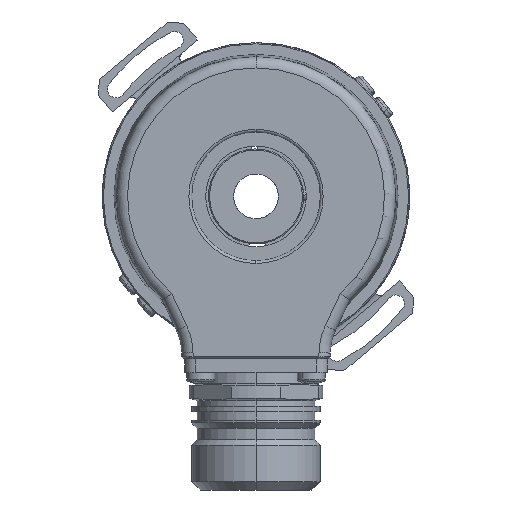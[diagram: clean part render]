
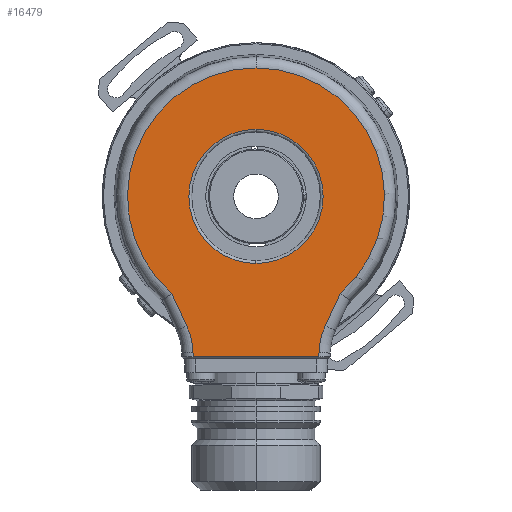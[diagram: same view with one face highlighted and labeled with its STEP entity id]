
A CAD part, left-side view. The second image highlights one B-rep face of the part: STEP entity #16479.
In plain terms, the highlighted planar face has unit normal (-1, 0, 0).
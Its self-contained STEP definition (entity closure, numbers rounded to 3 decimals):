
#612 = VERTEX_POINT ( 'NONE', #11156 ) ;
#623 = EDGE_CURVE ( 'NONE', #627, #612, #11221, .T. ) ;
#627 = VERTEX_POINT ( 'NONE', #11203 ) ;
#696 = EDGE_CURVE ( 'NONE', #699, #703, #12093, .T. ) ;
#699 = VERTEX_POINT ( 'NONE', #12085 ) ;
#703 = VERTEX_POINT ( 'NONE', #12072 ) ;
#1457 = VERTEX_POINT ( 'NONE', #18518 ) ;
#1724 = VERTEX_POINT ( 'NONE', #19323 ) ;
#1726 = VERTEX_POINT ( 'NONE', #19322 ) ;
#1728 = EDGE_CURVE ( 'NONE', #612, #1726, #19321, .T. ) ;
#1736 = EDGE_CURVE ( 'NONE', #1457, #627, #19394, .T. ) ;
#1788 = ORIENTED_EDGE ( 'NONE', *, *, #1736, .T. ) ;
#1795 = ORIENTED_EDGE ( 'NONE', *, *, #1839, .T. ) ;
#1796 = ORIENTED_EDGE ( 'NONE', *, *, #2601, .T. ) ;
#1802 = ORIENTED_EDGE ( 'NONE', *, *, #1728, .T. ) ;
#1803 = ORIENTED_EDGE ( 'NONE', *, *, #2604, .T. ) ;
#1830 = VERTEX_POINT ( 'NONE', #19706 ) ;
#1839 = EDGE_CURVE ( 'NONE', #1724, #1830, #19727, .T. ) ;
#1840 = ORIENTED_EDGE ( 'NONE', *, *, #17323, .T. ) ;
#1844 = EDGE_CURVE ( 'NONE', #17140, #16391, #19752, .T. ) ;
#1845 = ORIENTED_EDGE ( 'NONE', *, *, #16478, .T. ) ;
#1851 = ORIENTED_EDGE ( 'NONE', *, *, #623, .T. ) ;
#2598 = VERTEX_POINT ( 'NONE', #22463 ) ;
#2601 = EDGE_CURVE ( 'NONE', #2598, #1457, #22488, .T. ) ;
#2604 = EDGE_CURVE ( 'NONE', #1726, #1724, #22484, .T. ) ;
#11156 = CARTESIAN_POINT ( 'NONE',  ( -21., 15.091, -17.32 ) ) ;
#11203 = CARTESIAN_POINT ( 'NONE',  ( -21., 0., 22.972 ) ) ;
#11217 = DIRECTION ( 'NONE',  ( 0., 0., 1. ) ) ;
#11218 = DIRECTION ( 'NONE',  ( -1., 0., 0. ) ) ;
#11219 = CARTESIAN_POINT ( 'NONE',  ( -21., 0., 0. ) ) ;
#11220 = AXIS2_PLACEMENT_3D ( 'NONE', #11219, #11218, #11217 ) ;
#11221 = CIRCLE ( 'NONE', #11220, 22.972 ) ;
#12072 = CARTESIAN_POINT ( 'NONE',  ( -21., 0., -12. ) ) ;
#12085 = CARTESIAN_POINT ( 'NONE',  ( -21., 0., 12. ) ) ;
#12086 = DIRECTION ( 'NONE',  ( 0., 0., 1. ) ) ;
#12088 = DIRECTION ( 'NONE',  ( 1., 0., 0. ) ) ;
#12090 = CARTESIAN_POINT ( 'NONE',  ( -21., 0., 0. ) ) ;
#12091 = AXIS2_PLACEMENT_3D ( 'NONE', #12090, #12088, #12086 ) ;
#12093 = CIRCLE ( 'NONE', #12091, 12. ) ;
#12854 = CARTESIAN_POINT ( 'NONE',  ( -21., -11.268, -27.974 ) ) ;
#13127 = FACE_OUTER_BOUND ( 'NONE', #17267, .T. ) ;
#13128 = FACE_BOUND ( 'NONE', #16480, .T. ) ;
#13129 = DIRECTION ( 'NONE',  ( 0., 0., 1. ) ) ;
#13130 = DIRECTION ( 'NONE',  ( 1., 0., 0. ) ) ;
#13131 = CARTESIAN_POINT ( 'NONE',  ( -21., 0., 0. ) ) ;
#13132 = AXIS2_PLACEMENT_3D ( 'NONE', #13131, #13130, #13129 ) ;
#13133 = CIRCLE ( 'NONE', #13132, 12. ) ;
#13176 = DIRECTION ( 'NONE',  ( 0., 0., 1. ) ) ;
#13178 = DIRECTION ( 'NONE',  ( 1., 0., 0. ) ) ;
#13179 = CARTESIAN_POINT ( 'NONE',  ( -21., 0., 0. ) ) ;
#13180 = AXIS2_PLACEMENT_3D ( 'NONE', #13179, #13178, #13176 ) ;
#13185 = PLANE ( 'NONE',  #13180 ) ;
#14734 = DIRECTION ( 'NONE',  ( 0., 0., 1. ) ) ;
#14735 = DIRECTION ( 'NONE',  ( 1., 0., 0. ) ) ;
#14746 = CARTESIAN_POINT ( 'NONE',  ( -21., -23.266, -28.183 ) ) ;
#14747 = AXIS2_PLACEMENT_3D ( 'NONE', #14746, #14735, #14734 ) ;
#14750 = CIRCLE ( 'NONE', #14747, 12. ) ;
#14751 = DIRECTION ( 'NONE',  ( 0., -1., 0. ) ) ;
#14752 = VECTOR ( 'NONE', #14751, 1000. ) ;
#14753 = CARTESIAN_POINT ( 'NONE',  ( -21., -11.25, -28.695 ) ) ;
#14754 = LINE ( 'NONE', #14753, #14752 ) ;
#14755 = CARTESIAN_POINT ( 'NONE',  ( -21., -11.255, -28.695 ) ) ;
#16391 = VERTEX_POINT ( 'NONE', #12854 ) ;
#16478 = EDGE_CURVE ( 'NONE', #703, #699, #13133, .T. ) ;
#16479 = ADVANCED_FACE ( 'NONE', ( #13128, #13127 ), #13185, .F. ) ;
#16480 = EDGE_LOOP ( 'NONE', ( #17217, #1845 ) ) ;
#17140 = VERTEX_POINT ( 'NONE', #14755 ) ;
#17171 = ORIENTED_EDGE ( 'NONE', *, *, #17294, .T. ) ;
#17217 = ORIENTED_EDGE ( 'NONE', *, *, #696, .T. ) ;
#17267 = EDGE_LOOP ( 'NONE', ( #1795, #17171, #17308, #1840, #1796, #1788, #1851, #1802, #1803 ) ) ;
#17294 = EDGE_CURVE ( 'NONE', #1830, #17140, #14754, .T. ) ;
#17308 = ORIENTED_EDGE ( 'NONE', *, *, #1844, .T. ) ;
#17323 = EDGE_CURVE ( 'NONE', #16391, #2598, #14750, .T. ) ;
#18518 = CARTESIAN_POINT ( 'NONE',  ( -21., -15.091, -17.32 ) ) ;
#19318 = DIRECTION ( 'NONE',  ( 0., -0.423, -0.906 ) ) ;
#19319 = VECTOR ( 'NONE', #19318, 1000. ) ;
#19320 = CARTESIAN_POINT ( 'NONE',  ( -21., 12.39, -23.112 ) ) ;
#19321 = LINE ( 'NONE', #19320, #19319 ) ;
#19322 = CARTESIAN_POINT ( 'NONE',  ( -21., 12.39, -23.112 ) ) ;
#19323 = CARTESIAN_POINT ( 'NONE',  ( -21., 11.268, -27.974 ) ) ;
#19390 = DIRECTION ( 'NONE',  ( 0., 0., 1. ) ) ;
#19391 = DIRECTION ( 'NONE',  ( -1., 0., 0. ) ) ;
#19392 = CARTESIAN_POINT ( 'NONE',  ( -21., 0., 0. ) ) ;
#19393 = AXIS2_PLACEMENT_3D ( 'NONE', #19392, #19391, #19390 ) ;
#19394 = CIRCLE ( 'NONE', #19393, 22.972 ) ;
#19706 = CARTESIAN_POINT ( 'NONE',  ( -21., 11.255, -28.695 ) ) ;
#19724 = DIRECTION ( 'NONE',  ( 0., -0.017, -1. ) ) ;
#19725 = VECTOR ( 'NONE', #19724, 1000. ) ;
#19726 = CARTESIAN_POINT ( 'NONE',  ( -21., 11.752, -0.205 ) ) ;
#19727 = LINE ( 'NONE', #19726, #19725 ) ;
#19749 = DIRECTION ( 'NONE',  ( 0., -0.017, 1. ) ) ;
#19750 = VECTOR ( 'NONE', #19749, 1000. ) ;
#19751 = CARTESIAN_POINT ( 'NONE',  ( -21., -11.752, -0.205 ) ) ;
#19752 = LINE ( 'NONE', #19751, #19750 ) ;
#22463 = CARTESIAN_POINT ( 'NONE',  ( -21., -12.39, -23.112 ) ) ;
#22484 = CIRCLE ( 'NONE', #22534, 12. ) ;
#22485 = DIRECTION ( 'NONE',  ( 0., -0.423, 0.906 ) ) ;
#22486 = VECTOR ( 'NONE', #22485, 1000. ) ;
#22487 = CARTESIAN_POINT ( 'NONE',  ( -21., -14.953, -17.615 ) ) ;
#22488 = LINE ( 'NONE', #22487, #22486 ) ;
#22531 = DIRECTION ( 'NONE',  ( 0., 0., 1. ) ) ;
#22532 = DIRECTION ( 'NONE',  ( 1., 0., 0. ) ) ;
#22533 = CARTESIAN_POINT ( 'NONE',  ( -21., 23.266, -28.183 ) ) ;
#22534 = AXIS2_PLACEMENT_3D ( 'NONE', #22533, #22532, #22531 ) ;
